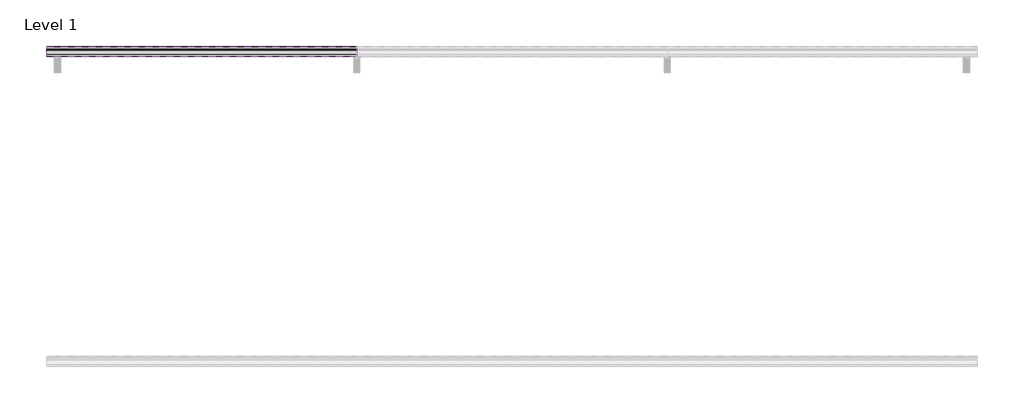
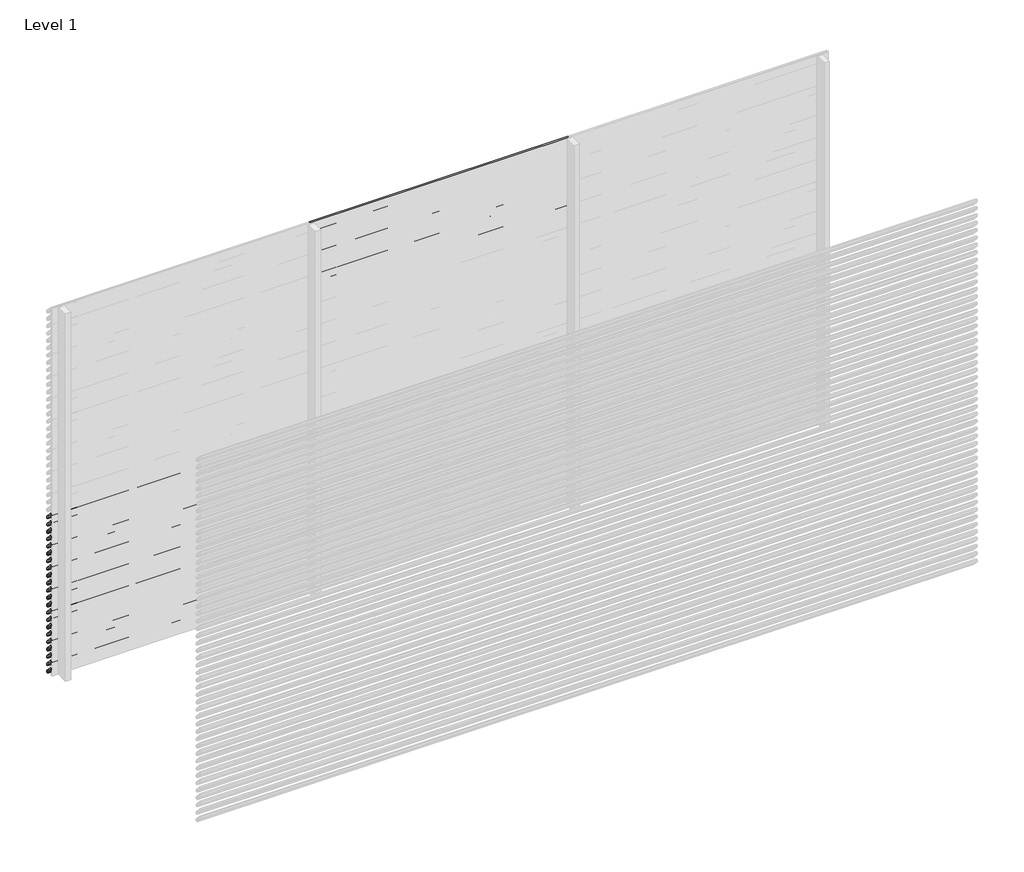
# One storey, part 56 of 153: 33 proxies.
"""IFC4 building model written with IfcOpenShell, lengths in millimetres."""

from ifc_helpers import new_model, si_unit, point, frame, frame_2d, origin, place, context, project, spatial, polyline, circle_curve, trimmed, segment, composite_curve, outline, extrude, element, save

model = new_model("IFC4")

# Units and contexts
model_context = context("Model", 3, world=origin())
ifc_project = project(units=[si_unit("LENGTHUNIT", "METRE", prefix="MILLI")], contexts=[model_context])

# Site, building, storey
site = spatial("IfcSite", under=ifc_project)
building = spatial("IfcBuilding", under=site)
storey = spatial("IfcBuildingStorey", under=building, Name="Level 1", Elevation=0.0)

# Proxies
placement = place(None, origin())
element("IfcBuildingElementProxy", 1, Name="Wall Sweeps", at=placement, inside=storey, context=model_context, shape_type="SweptSolid", body=[
    extrude(outline(composite_curve([segment(polyline([(28985.0540136, 1320.0), (28999.874191, 1318.7034025), (29049.0540136, 1265.0102749), (29049.0540136, 1253.6108187)]), True, "CONTINUOUS"), segment(trimmed(circle_curve(frame_2d((29045.7883652, 1253.897153)), 3.2781774), [point((29049.0540136, 1253.6108187))], [point((29046.4639442, 1250.6893438))], False, "CARTESIAN"), True, "CONTINUOUS"), segment(polyline([(29046.4639442, 1250.6893438), (29034.1895723, 1251.6282758), (28985.0540136, 1305.2730773), (28985.0540136, 1320.0)]), True, "CONTINUOUS")], self_intersect=False), holes=[composite_curve([segment(polyline([(28999.1621773, 1317.2599659), (28986.5540136, 1318.3630372), (28986.5540136, 1305.856213), (29034.8952036, 1253.0786805), (29046.3312542, 1252.2038762)]), True, "CONTINUOUS"), segment(trimmed(circle_curve(frame_2d((29045.7883652, 1253.897153)), 1.7781774), [point((29046.3312542, 1252.2038762))], [point((29047.5540136, 1253.6864389))], True, "CARTESIAN"), True, "CONTINUOUS"), segment(polyline([(29047.5540136, 1253.6864389), (29047.5540136, 1264.4271392), (28999.1621773, 1317.2599659)]), True, "CONTINUOUS")], self_intersect=False)]), frame((44966.6208097, 0.0, 0.0), z_axis=(1.0, 0.0, 0.0), x_axis=(0.0, 1.0, 0.0)), (0.0, 0.0, 1.0), 2000.0000001),
])
element("IfcBuildingElementProxy", 2, Name="Wall Sweeps", at=placement, inside=storey, context=model_context, shape_type="SweptSolid", body=[
    extrude(outline(composite_curve([segment(polyline([(28985.0540136, 1260.0), (28999.874191, 1258.7034025), (29049.0540136, 1205.0102749), (29049.0540136, 1193.6108187)]), True, "CONTINUOUS"), segment(trimmed(circle_curve(frame_2d((29045.7883652, 1193.897153)), 3.2781774), [point((29049.0540136, 1193.6108187))], [point((29046.4639442, 1190.6893438))], False, "CARTESIAN"), True, "CONTINUOUS"), segment(polyline([(29046.4639442, 1190.6893438), (29034.1895723, 1191.6282758), (28985.0540136, 1245.2730773), (28985.0540136, 1260.0)]), True, "CONTINUOUS")], self_intersect=False), holes=[composite_curve([segment(polyline([(28999.1621773, 1257.2599659), (28986.5540136, 1258.3630372), (28986.5540136, 1245.856213), (29034.8952036, 1193.0786805), (29046.3312542, 1192.2038762)]), True, "CONTINUOUS"), segment(trimmed(circle_curve(frame_2d((29045.7883652, 1193.897153)), 1.7781774), [point((29046.3312542, 1192.2038762))], [point((29047.5540136, 1193.6864389))], True, "CARTESIAN"), True, "CONTINUOUS"), segment(polyline([(29047.5540136, 1193.6864389), (29047.5540136, 1204.4271392), (28999.1621773, 1257.2599659)]), True, "CONTINUOUS")], self_intersect=False)]), frame((44966.6208097, 0.0, 0.0), z_axis=(1.0, 0.0, 0.0), x_axis=(0.0, 1.0, 0.0)), (0.0, 0.0, 1.0), 2000.0000001),
])
element("IfcBuildingElementProxy", 3, Name="Wall Sweeps", at=placement, inside=storey, context=model_context, shape_type="SweptSolid", body=[
    extrude(outline(composite_curve([segment(polyline([(28985.0540136, 1200.0), (28999.874191, 1198.7034025), (29049.0540136, 1145.0102749), (29049.0540136, 1133.6108187)]), True, "CONTINUOUS"), segment(trimmed(circle_curve(frame_2d((29045.7883652, 1133.897153)), 3.2781774), [point((29049.0540136, 1133.6108187))], [point((29046.4639442, 1130.6893438))], False, "CARTESIAN"), True, "CONTINUOUS"), segment(polyline([(29046.4639442, 1130.6893438), (29034.1895723, 1131.6282758), (28985.0540136, 1185.2730773), (28985.0540136, 1200.0)]), True, "CONTINUOUS")], self_intersect=False), holes=[composite_curve([segment(polyline([(28999.1621773, 1197.2599659), (28986.5540136, 1198.3630372), (28986.5540136, 1185.856213), (29034.8952036, 1133.0786805), (29046.3312542, 1132.2038762)]), True, "CONTINUOUS"), segment(trimmed(circle_curve(frame_2d((29045.7883652, 1133.897153)), 1.7781774), [point((29046.3312542, 1132.2038762))], [point((29047.5540136, 1133.6864389))], True, "CARTESIAN"), True, "CONTINUOUS"), segment(polyline([(29047.5540136, 1133.6864389), (29047.5540136, 1144.4271392), (28999.1621773, 1197.2599659)]), True, "CONTINUOUS")], self_intersect=False)]), frame((44966.6208097, 0.0, 0.0), z_axis=(1.0, 0.0, 0.0), x_axis=(0.0, 1.0, 0.0)), (0.0, 0.0, 1.0), 2000.0000001),
])
element("IfcBuildingElementProxy", 4, Name="Wall Sweeps", at=placement, inside=storey, context=model_context, shape_type="SweptSolid", body=[
    extrude(outline(composite_curve([segment(polyline([(28985.0540136, 1140.0), (28999.874191, 1138.7034025), (29049.0540136, 1085.0102749), (29049.0540136, 1073.6108187)]), True, "CONTINUOUS"), segment(trimmed(circle_curve(frame_2d((29045.7883652, 1073.897153)), 3.2781774), [point((29049.0540136, 1073.6108187))], [point((29046.4639442, 1070.6893438))], False, "CARTESIAN"), True, "CONTINUOUS"), segment(polyline([(29046.4639442, 1070.6893438), (29034.1895723, 1071.6282758), (28985.0540136, 1125.2730773), (28985.0540136, 1140.0)]), True, "CONTINUOUS")], self_intersect=False), holes=[composite_curve([segment(polyline([(28999.1621773, 1137.2599659), (28986.5540136, 1138.3630372), (28986.5540136, 1125.856213), (29034.8952036, 1073.0786805), (29046.3312542, 1072.2038762)]), True, "CONTINUOUS"), segment(trimmed(circle_curve(frame_2d((29045.7883652, 1073.897153)), 1.7781774), [point((29046.3312542, 1072.2038762))], [point((29047.5540136, 1073.6864389))], True, "CARTESIAN"), True, "CONTINUOUS"), segment(polyline([(29047.5540136, 1073.6864389), (29047.5540136, 1084.4271392), (28999.1621773, 1137.2599659)]), True, "CONTINUOUS")], self_intersect=False)]), frame((44966.6208097, 0.0, 0.0), z_axis=(1.0, 0.0, 0.0), x_axis=(0.0, 1.0, 0.0)), (0.0, 0.0, 1.0), 2000.0000001),
])
element("IfcBuildingElementProxy", 5, Name="Wall Sweeps", at=placement, inside=storey, context=model_context, shape_type="SweptSolid", body=[
    extrude(outline(composite_curve([segment(polyline([(28985.0540136, 1080.0), (28999.874191, 1078.7034025), (29049.0540136, 1025.0102749), (29049.0540136, 1013.6108187)]), True, "CONTINUOUS"), segment(trimmed(circle_curve(frame_2d((29045.7883652, 1013.897153)), 3.2781774), [point((29049.0540136, 1013.6108187))], [point((29046.4639442, 1010.6893438))], False, "CARTESIAN"), True, "CONTINUOUS"), segment(polyline([(29046.4639442, 1010.6893438), (29034.1895723, 1011.6282758), (28985.0540136, 1065.2730773), (28985.0540136, 1080.0)]), True, "CONTINUOUS")], self_intersect=False), holes=[composite_curve([segment(polyline([(28999.1621773, 1077.2599659), (28986.5540136, 1078.3630372), (28986.5540136, 1065.856213), (29034.8952036, 1013.0786805), (29046.3312542, 1012.2038762)]), True, "CONTINUOUS"), segment(trimmed(circle_curve(frame_2d((29045.7883652, 1013.897153)), 1.7781774), [point((29046.3312542, 1012.2038762))], [point((29047.5540136, 1013.6864389))], True, "CARTESIAN"), True, "CONTINUOUS"), segment(polyline([(29047.5540136, 1013.6864389), (29047.5540136, 1024.4271392), (28999.1621773, 1077.2599659)]), True, "CONTINUOUS")], self_intersect=False)]), frame((44966.6208097, 0.0, 0.0), z_axis=(1.0, 0.0, 0.0), x_axis=(0.0, 1.0, 0.0)), (0.0, 0.0, 1.0), 2000.0000001),
])
element("IfcBuildingElementProxy", 6, Name="Wall Sweeps", at=placement, inside=storey, context=model_context, shape_type="SweptSolid", body=[
    extrude(outline(composite_curve([segment(polyline([(28985.0540136, 1020.0), (28999.874191, 1018.7034025), (29049.0540136, 965.0102749), (29049.0540136, 953.6108187)]), True, "CONTINUOUS"), segment(trimmed(circle_curve(frame_2d((29045.7883652, 953.897153)), 3.2781774), [point((29049.0540136, 953.6108187))], [point((29046.4639442, 950.6893438))], False, "CARTESIAN"), True, "CONTINUOUS"), segment(polyline([(29046.4639442, 950.6893438), (29034.1895723, 951.6282758), (28985.0540136, 1005.2730773), (28985.0540136, 1020.0)]), True, "CONTINUOUS")], self_intersect=False), holes=[composite_curve([segment(polyline([(28999.1621773, 1017.2599659), (28986.5540136, 1018.3630372), (28986.5540136, 1005.856213), (29034.8952036, 953.0786805), (29046.3312542, 952.2038762)]), True, "CONTINUOUS"), segment(trimmed(circle_curve(frame_2d((29045.7883652, 953.897153)), 1.7781774), [point((29046.3312542, 952.2038762))], [point((29047.5540136, 953.6864389))], True, "CARTESIAN"), True, "CONTINUOUS"), segment(polyline([(29047.5540136, 953.6864389), (29047.5540136, 964.4271392), (28999.1621773, 1017.2599659)]), True, "CONTINUOUS")], self_intersect=False)]), frame((44966.6208097, 0.0, 0.0), z_axis=(1.0, 0.0, 0.0), x_axis=(0.0, 1.0, 0.0)), (0.0, 0.0, 1.0), 2000.0000001),
])
element("IfcBuildingElementProxy", 7, Name="Wall Sweeps", at=placement, inside=storey, context=model_context, shape_type="SweptSolid", body=[
    extrude(outline(composite_curve([segment(polyline([(28985.0540136, 960.0), (28999.874191, 958.7034025), (29049.0540136, 905.0102749), (29049.0540136, 893.6108187)]), True, "CONTINUOUS"), segment(trimmed(circle_curve(frame_2d((29045.7883652, 893.897153)), 3.2781774), [point((29049.0540136, 893.6108187))], [point((29046.4639442, 890.6893438))], False, "CARTESIAN"), True, "CONTINUOUS"), segment(polyline([(29046.4639442, 890.6893438), (29034.1895723, 891.6282758), (28985.0540136, 945.2730773), (28985.0540136, 960.0)]), True, "CONTINUOUS")], self_intersect=False), holes=[composite_curve([segment(polyline([(28999.1621773, 957.2599659), (28986.5540136, 958.3630372), (28986.5540136, 945.856213), (29034.8952036, 893.0786805), (29046.3312542, 892.2038762)]), True, "CONTINUOUS"), segment(trimmed(circle_curve(frame_2d((29045.7883652, 893.897153)), 1.7781774), [point((29046.3312542, 892.2038762))], [point((29047.5540136, 893.6864389))], True, "CARTESIAN"), True, "CONTINUOUS"), segment(polyline([(29047.5540136, 893.6864389), (29047.5540136, 904.4271392), (28999.1621773, 957.2599659)]), True, "CONTINUOUS")], self_intersect=False)]), frame((44966.6208097, 0.0, 0.0), z_axis=(1.0, 0.0, 0.0), x_axis=(0.0, 1.0, 0.0)), (0.0, 0.0, 1.0), 2000.0000001),
])
element("IfcBuildingElementProxy", 8, Name="Wall Sweeps", at=placement, inside=storey, context=model_context, shape_type="SweptSolid", body=[
    extrude(outline(composite_curve([segment(polyline([(28985.0540136, 900.0), (28999.874191, 898.7034025), (29049.0540136, 845.0102749), (29049.0540136, 833.6108187)]), True, "CONTINUOUS"), segment(trimmed(circle_curve(frame_2d((29045.7883652, 833.897153)), 3.2781774), [point((29049.0540136, 833.6108187))], [point((29046.4639442, 830.6893438))], False, "CARTESIAN"), True, "CONTINUOUS"), segment(polyline([(29046.4639442, 830.6893438), (29034.1895723, 831.6282758), (28985.0540136, 885.2730773), (28985.0540136, 900.0)]), True, "CONTINUOUS")], self_intersect=False), holes=[composite_curve([segment(polyline([(28999.1621773, 897.2599659), (28986.5540136, 898.3630372), (28986.5540136, 885.856213), (29034.8952036, 833.0786805), (29046.3312542, 832.2038762)]), True, "CONTINUOUS"), segment(trimmed(circle_curve(frame_2d((29045.7883652, 833.897153)), 1.7781774), [point((29046.3312542, 832.2038762))], [point((29047.5540136, 833.6864389))], True, "CARTESIAN"), True, "CONTINUOUS"), segment(polyline([(29047.5540136, 833.6864389), (29047.5540136, 844.4271392), (28999.1621773, 897.2599659)]), True, "CONTINUOUS")], self_intersect=False)]), frame((44966.6208097, 0.0, 0.0), z_axis=(1.0, 0.0, 0.0), x_axis=(0.0, 1.0, 0.0)), (0.0, 0.0, 1.0), 2000.0000001),
])
element("IfcBuildingElementProxy", 9, Name="Wall Sweeps", at=placement, inside=storey, context=model_context, shape_type="SweptSolid", body=[
    extrude(outline(composite_curve([segment(polyline([(28985.0540136, 840.0), (28999.874191, 838.7034025), (29049.0540136, 785.0102749), (29049.0540136, 773.6108187)]), True, "CONTINUOUS"), segment(trimmed(circle_curve(frame_2d((29045.7883652, 773.897153)), 3.2781774), [point((29049.0540136, 773.6108187))], [point((29046.4639442, 770.6893438))], False, "CARTESIAN"), True, "CONTINUOUS"), segment(polyline([(29046.4639442, 770.6893438), (29034.1895723, 771.6282758), (28985.0540136, 825.2730773), (28985.0540136, 840.0)]), True, "CONTINUOUS")], self_intersect=False), holes=[composite_curve([segment(polyline([(28999.1621773, 837.2599659), (28986.5540136, 838.3630372), (28986.5540136, 825.856213), (29034.8952036, 773.0786805), (29046.3312542, 772.2038762)]), True, "CONTINUOUS"), segment(trimmed(circle_curve(frame_2d((29045.7883652, 773.897153)), 1.7781774), [point((29046.3312542, 772.2038762))], [point((29047.5540136, 773.6864389))], True, "CARTESIAN"), True, "CONTINUOUS"), segment(polyline([(29047.5540136, 773.6864389), (29047.5540136, 784.4271392), (28999.1621773, 837.2599659)]), True, "CONTINUOUS")], self_intersect=False)]), frame((44966.6208097, 0.0, 0.0), z_axis=(1.0, 0.0, 0.0), x_axis=(0.0, 1.0, 0.0)), (0.0, 0.0, 1.0), 2000.0000001),
])
element("IfcBuildingElementProxy", 10, Name="Wall Sweeps", at=placement, inside=storey, context=model_context, shape_type="SweptSolid", body=[
    extrude(outline(composite_curve([segment(polyline([(28985.0540136, 780.0), (28999.874191, 778.7034025), (29049.0540136, 725.0102749), (29049.0540136, 713.6108187)]), True, "CONTINUOUS"), segment(trimmed(circle_curve(frame_2d((29045.7883652, 713.897153)), 3.2781774), [point((29049.0540136, 713.6108187))], [point((29046.4639442, 710.6893438))], False, "CARTESIAN"), True, "CONTINUOUS"), segment(polyline([(29046.4639442, 710.6893438), (29034.1895723, 711.6282758), (28985.0540136, 765.2730773), (28985.0540136, 780.0)]), True, "CONTINUOUS")], self_intersect=False), holes=[composite_curve([segment(polyline([(28999.1621773, 777.2599659), (28986.5540136, 778.3630372), (28986.5540136, 765.856213), (29034.8952036, 713.0786805), (29046.3312542, 712.2038762)]), True, "CONTINUOUS"), segment(trimmed(circle_curve(frame_2d((29045.7883652, 713.897153)), 1.7781774), [point((29046.3312542, 712.2038762))], [point((29047.5540136, 713.6864389))], True, "CARTESIAN"), True, "CONTINUOUS"), segment(polyline([(29047.5540136, 713.6864389), (29047.5540136, 724.4271392), (28999.1621773, 777.2599659)]), True, "CONTINUOUS")], self_intersect=False)]), frame((44966.6208097, 0.0, 0.0), z_axis=(1.0, 0.0, 0.0), x_axis=(0.0, 1.0, 0.0)), (0.0, 0.0, 1.0), 2000.0000001),
])
element("IfcBuildingElementProxy", 11, Name="Wall Sweeps", at=placement, inside=storey, context=model_context, shape_type="SweptSolid", body=[
    extrude(outline(composite_curve([segment(polyline([(28985.0540136, 720.0), (28999.874191, 718.7034025), (29049.0540136, 665.0102749), (29049.0540136, 653.6108187)]), True, "CONTINUOUS"), segment(trimmed(circle_curve(frame_2d((29045.7883652, 653.897153)), 3.2781774), [point((29049.0540136, 653.6108187))], [point((29046.4639442, 650.6893438))], False, "CARTESIAN"), True, "CONTINUOUS"), segment(polyline([(29046.4639442, 650.6893438), (29034.1895723, 651.6282758), (28985.0540136, 705.2730773), (28985.0540136, 720.0)]), True, "CONTINUOUS")], self_intersect=False), holes=[composite_curve([segment(polyline([(28999.1621773, 717.2599659), (28986.5540136, 718.3630372), (28986.5540136, 705.856213), (29034.8952036, 653.0786805), (29046.3312542, 652.2038762)]), True, "CONTINUOUS"), segment(trimmed(circle_curve(frame_2d((29045.7883652, 653.897153)), 1.7781774), [point((29046.3312542, 652.2038762))], [point((29047.5540136, 653.6864389))], True, "CARTESIAN"), True, "CONTINUOUS"), segment(polyline([(29047.5540136, 653.6864389), (29047.5540136, 664.4271392), (28999.1621773, 717.2599659)]), True, "CONTINUOUS")], self_intersect=False)]), frame((44966.6208097, 0.0, 0.0), z_axis=(1.0, 0.0, 0.0), x_axis=(0.0, 1.0, 0.0)), (0.0, 0.0, 1.0), 2000.0000001),
])
element("IfcBuildingElementProxy", 12, Name="Wall Sweeps", at=placement, inside=storey, context=model_context, shape_type="SweptSolid", body=[
    extrude(outline(composite_curve([segment(polyline([(28985.0540136, 660.0), (28999.874191, 658.7034025), (29049.0540136, 605.0102749), (29049.0540136, 593.6108187)]), True, "CONTINUOUS"), segment(trimmed(circle_curve(frame_2d((29045.7883652, 593.897153)), 3.2781774), [point((29049.0540136, 593.6108187))], [point((29046.4639442, 590.6893438))], False, "CARTESIAN"), True, "CONTINUOUS"), segment(polyline([(29046.4639442, 590.6893438), (29034.1895723, 591.6282758), (28985.0540136, 645.2730773), (28985.0540136, 660.0)]), True, "CONTINUOUS")], self_intersect=False), holes=[composite_curve([segment(polyline([(28999.1621773, 657.2599659), (28986.5540136, 658.3630372), (28986.5540136, 645.856213), (29034.8952036, 593.0786805), (29046.3312542, 592.2038762)]), True, "CONTINUOUS"), segment(trimmed(circle_curve(frame_2d((29045.7883652, 593.897153)), 1.7781774), [point((29046.3312542, 592.2038762))], [point((29047.5540136, 593.6864389))], True, "CARTESIAN"), True, "CONTINUOUS"), segment(polyline([(29047.5540136, 593.6864389), (29047.5540136, 604.4271392), (28999.1621773, 657.2599659)]), True, "CONTINUOUS")], self_intersect=False)]), frame((44966.6208097, 0.0, 0.0), z_axis=(1.0, 0.0, 0.0), x_axis=(0.0, 1.0, 0.0)), (0.0, 0.0, 1.0), 2000.0000001),
])
element("IfcBuildingElementProxy", 13, Name="Wall Sweeps", at=placement, inside=storey, context=model_context, shape_type="SweptSolid", body=[
    extrude(outline(composite_curve([segment(polyline([(28985.0540136, 600.0), (28999.874191, 598.7034025), (29049.0540136, 545.0102749), (29049.0540136, 533.6108187)]), True, "CONTINUOUS"), segment(trimmed(circle_curve(frame_2d((29045.7883652, 533.897153)), 3.2781774), [point((29049.0540136, 533.6108187))], [point((29046.4639442, 530.6893438))], False, "CARTESIAN"), True, "CONTINUOUS"), segment(polyline([(29046.4639442, 530.6893438), (29034.1895723, 531.6282758), (28985.0540136, 585.2730773), (28985.0540136, 600.0)]), True, "CONTINUOUS")], self_intersect=False), holes=[composite_curve([segment(polyline([(28999.1621773, 597.2599659), (28986.5540136, 598.3630372), (28986.5540136, 585.856213), (29034.8952036, 533.0786805), (29046.3312542, 532.2038762)]), True, "CONTINUOUS"), segment(trimmed(circle_curve(frame_2d((29045.7883652, 533.897153)), 1.7781774), [point((29046.3312542, 532.2038762))], [point((29047.5540136, 533.6864389))], True, "CARTESIAN"), True, "CONTINUOUS"), segment(polyline([(29047.5540136, 533.6864389), (29047.5540136, 544.4271392), (28999.1621773, 597.2599659)]), True, "CONTINUOUS")], self_intersect=False)]), frame((44966.6208097, 0.0, 0.0), z_axis=(1.0, 0.0, 0.0), x_axis=(0.0, 1.0, 0.0)), (0.0, 0.0, 1.0), 2000.0000001),
])
element("IfcBuildingElementProxy", 14, Name="Wall Sweeps", at=placement, inside=storey, context=model_context, shape_type="SweptSolid", body=[
    extrude(outline(composite_curve([segment(polyline([(28985.0540136, 540.0), (28999.874191, 538.7034025), (29049.0540136, 485.0102749), (29049.0540136, 473.6108187)]), True, "CONTINUOUS"), segment(trimmed(circle_curve(frame_2d((29045.7883652, 473.897153)), 3.2781774), [point((29049.0540136, 473.6108187))], [point((29046.4639442, 470.6893438))], False, "CARTESIAN"), True, "CONTINUOUS"), segment(polyline([(29046.4639442, 470.6893438), (29034.1895723, 471.6282758), (28985.0540136, 525.2730773), (28985.0540136, 540.0)]), True, "CONTINUOUS")], self_intersect=False), holes=[composite_curve([segment(polyline([(28999.1621773, 537.2599659), (28986.5540136, 538.3630372), (28986.5540136, 525.856213), (29034.8952036, 473.0786805), (29046.3312542, 472.2038762)]), True, "CONTINUOUS"), segment(trimmed(circle_curve(frame_2d((29045.7883652, 473.897153)), 1.7781774), [point((29046.3312542, 472.2038762))], [point((29047.5540136, 473.6864389))], True, "CARTESIAN"), True, "CONTINUOUS"), segment(polyline([(29047.5540136, 473.6864389), (29047.5540136, 484.4271392), (28999.1621773, 537.2599659)]), True, "CONTINUOUS")], self_intersect=False)]), frame((44966.6208097, 0.0, 0.0), z_axis=(1.0, 0.0, 0.0), x_axis=(0.0, 1.0, 0.0)), (0.0, 0.0, 1.0), 2000.0000001),
])
element("IfcBuildingElementProxy", 15, Name="Wall Sweeps", at=placement, inside=storey, context=model_context, shape_type="SweptSolid", body=[
    extrude(outline(composite_curve([segment(polyline([(28985.0540136, 480.0), (28999.874191, 478.7034025), (29049.0540136, 425.0102749), (29049.0540136, 413.6108187)]), True, "CONTINUOUS"), segment(trimmed(circle_curve(frame_2d((29045.7883652, 413.897153)), 3.2781774), [point((29049.0540136, 413.6108187))], [point((29046.4639442, 410.6893438))], False, "CARTESIAN"), True, "CONTINUOUS"), segment(polyline([(29046.4639442, 410.6893438), (29034.1895723, 411.6282758), (28985.0540136, 465.2730773), (28985.0540136, 480.0)]), True, "CONTINUOUS")], self_intersect=False), holes=[composite_curve([segment(polyline([(28999.1621773, 477.2599659), (28986.5540136, 478.3630372), (28986.5540136, 465.856213), (29034.8952036, 413.0786805), (29046.3312542, 412.2038762)]), True, "CONTINUOUS"), segment(trimmed(circle_curve(frame_2d((29045.7883652, 413.897153)), 1.7781774), [point((29046.3312542, 412.2038762))], [point((29047.5540136, 413.6864389))], True, "CARTESIAN"), True, "CONTINUOUS"), segment(polyline([(29047.5540136, 413.6864389), (29047.5540136, 424.4271392), (28999.1621773, 477.2599659)]), True, "CONTINUOUS")], self_intersect=False)]), frame((44966.6208097, 0.0, 0.0), z_axis=(1.0, 0.0, 0.0), x_axis=(0.0, 1.0, 0.0)), (0.0, 0.0, 1.0), 2000.0000001),
])
element("IfcBuildingElementProxy", 16, Name="Wall Sweeps", at=placement, inside=storey, context=model_context, shape_type="SweptSolid", body=[
    extrude(outline(composite_curve([segment(polyline([(28985.0540136, 420.0), (28999.874191, 418.7034025), (29049.0540136, 365.0102749), (29049.0540136, 353.6108187)]), True, "CONTINUOUS"), segment(trimmed(circle_curve(frame_2d((29045.7883652, 353.897153)), 3.2781774), [point((29049.0540136, 353.6108187))], [point((29046.4639442, 350.6893438))], False, "CARTESIAN"), True, "CONTINUOUS"), segment(polyline([(29046.4639442, 350.6893438), (29034.1895723, 351.6282758), (28985.0540136, 405.2730773), (28985.0540136, 420.0)]), True, "CONTINUOUS")], self_intersect=False), holes=[composite_curve([segment(polyline([(28999.1621773, 417.2599659), (28986.5540136, 418.3630372), (28986.5540136, 405.856213), (29034.8952036, 353.0786805), (29046.3312542, 352.2038762)]), True, "CONTINUOUS"), segment(trimmed(circle_curve(frame_2d((29045.7883652, 353.897153)), 1.7781774), [point((29046.3312542, 352.2038762))], [point((29047.5540136, 353.6864389))], True, "CARTESIAN"), True, "CONTINUOUS"), segment(polyline([(29047.5540136, 353.6864389), (29047.5540136, 364.4271392), (28999.1621773, 417.2599659)]), True, "CONTINUOUS")], self_intersect=False)]), frame((44966.6208097, 0.0, 0.0), z_axis=(1.0, 0.0, 0.0), x_axis=(0.0, 1.0, 0.0)), (0.0, 0.0, 1.0), 2000.0000001),
])
element("IfcBuildingElementProxy", 17, Name="Wall Sweeps", at=placement, inside=storey, context=model_context, shape_type="SweptSolid", body=[
    extrude(outline(composite_curve([segment(polyline([(28985.0540136, 360.0), (28999.874191, 358.7034025), (29049.0540136, 305.0102749), (29049.0540136, 293.6108187)]), True, "CONTINUOUS"), segment(trimmed(circle_curve(frame_2d((29045.7883652, 293.897153)), 3.2781774), [point((29049.0540136, 293.6108187))], [point((29046.4639442, 290.6893438))], False, "CARTESIAN"), True, "CONTINUOUS"), segment(polyline([(29046.4639442, 290.6893438), (29034.1895723, 291.6282758), (28985.0540136, 345.2730773), (28985.0540136, 360.0)]), True, "CONTINUOUS")], self_intersect=False), holes=[composite_curve([segment(polyline([(28999.1621773, 357.2599659), (28986.5540136, 358.3630372), (28986.5540136, 345.856213), (29034.8952036, 293.0786805), (29046.3312542, 292.2038762)]), True, "CONTINUOUS"), segment(trimmed(circle_curve(frame_2d((29045.7883652, 293.897153)), 1.7781774), [point((29046.3312542, 292.2038762))], [point((29047.5540136, 293.6864389))], True, "CARTESIAN"), True, "CONTINUOUS"), segment(polyline([(29047.5540136, 293.6864389), (29047.5540136, 304.4271392), (28999.1621773, 357.2599659)]), True, "CONTINUOUS")], self_intersect=False)]), frame((44966.6208097, 0.0, 0.0), z_axis=(1.0, 0.0, 0.0), x_axis=(0.0, 1.0, 0.0)), (0.0, 0.0, 1.0), 2000.0000001),
])
element("IfcBuildingElementProxy", 18, Name="Wall Sweeps", at=placement, inside=storey, context=model_context, shape_type="SweptSolid", body=[
    extrude(outline(composite_curve([segment(polyline([(28985.0540136, 300.0), (28999.874191, 298.7034025), (29049.0540136, 245.0102749), (29049.0540136, 233.6108187)]), True, "CONTINUOUS"), segment(trimmed(circle_curve(frame_2d((29045.7883652, 233.897153)), 3.2781774), [point((29049.0540136, 233.6108187))], [point((29046.4639442, 230.6893438))], False, "CARTESIAN"), True, "CONTINUOUS"), segment(polyline([(29046.4639442, 230.6893438), (29034.1895723, 231.6282758), (28985.0540136, 285.2730773), (28985.0540136, 300.0)]), True, "CONTINUOUS")], self_intersect=False), holes=[composite_curve([segment(polyline([(28999.1621773, 297.2599659), (28986.5540136, 298.3630372), (28986.5540136, 285.856213), (29034.8952036, 233.0786805), (29046.3312542, 232.2038762)]), True, "CONTINUOUS"), segment(trimmed(circle_curve(frame_2d((29045.7883652, 233.897153)), 1.7781774), [point((29046.3312542, 232.2038762))], [point((29047.5540136, 233.6864389))], True, "CARTESIAN"), True, "CONTINUOUS"), segment(polyline([(29047.5540136, 233.6864389), (29047.5540136, 244.4271392), (28999.1621773, 297.2599659)]), True, "CONTINUOUS")], self_intersect=False)]), frame((44966.6208097, 0.0, 0.0), z_axis=(1.0, 0.0, 0.0), x_axis=(0.0, 1.0, 0.0)), (0.0, 0.0, 1.0), 2000.0000001),
])
element("IfcBuildingElementProxy", 19, Name="Wall Sweeps", at=placement, inside=storey, context=model_context, shape_type="SweptSolid", body=[
    extrude(outline(composite_curve([segment(polyline([(28985.0540136, 240.0), (28999.874191, 238.7034025), (29049.0540136, 185.0102749), (29049.0540136, 173.6108187)]), True, "CONTINUOUS"), segment(trimmed(circle_curve(frame_2d((29045.7883652, 173.897153)), 3.2781774), [point((29049.0540136, 173.6108187))], [point((29046.4639442, 170.6893438))], False, "CARTESIAN"), True, "CONTINUOUS"), segment(polyline([(29046.4639442, 170.6893438), (29034.1895723, 171.6282758), (28985.0540136, 225.2730773), (28985.0540136, 240.0)]), True, "CONTINUOUS")], self_intersect=False), holes=[composite_curve([segment(polyline([(28999.1621773, 237.2599659), (28986.5540136, 238.3630372), (28986.5540136, 225.856213), (29034.8952036, 173.0786805), (29046.3312542, 172.2038762)]), True, "CONTINUOUS"), segment(trimmed(circle_curve(frame_2d((29045.7883652, 173.897153)), 1.7781774), [point((29046.3312542, 172.2038762))], [point((29047.5540136, 173.6864389))], True, "CARTESIAN"), True, "CONTINUOUS"), segment(polyline([(29047.5540136, 173.6864389), (29047.5540136, 184.4271392), (28999.1621773, 237.2599659)]), True, "CONTINUOUS")], self_intersect=False)]), frame((44966.6208097, 0.0, 0.0), z_axis=(1.0, 0.0, 0.0), x_axis=(0.0, 1.0, 0.0)), (0.0, 0.0, 1.0), 2000.0000001),
])
element("IfcBuildingElementProxy", 20, Name="Wall Sweeps", at=placement, inside=storey, context=model_context, shape_type="SweptSolid", body=[
    extrude(outline(composite_curve([segment(polyline([(28985.0540136, 180.0), (28999.874191, 178.7034025), (29049.0540136, 125.0102749), (29049.0540136, 113.6108187)]), True, "CONTINUOUS"), segment(trimmed(circle_curve(frame_2d((29045.7883652, 113.897153)), 3.2781774), [point((29049.0540136, 113.6108187))], [point((29046.4639442, 110.6893438))], False, "CARTESIAN"), True, "CONTINUOUS"), segment(polyline([(29046.4639442, 110.6893438), (29034.1895723, 111.6282758), (28985.0540136, 165.2730773), (28985.0540136, 180.0)]), True, "CONTINUOUS")], self_intersect=False), holes=[composite_curve([segment(polyline([(28999.1621773, 177.2599659), (28986.5540136, 178.3630372), (28986.5540136, 165.856213), (29034.8952036, 113.0786805), (29046.3312542, 112.2038762)]), True, "CONTINUOUS"), segment(trimmed(circle_curve(frame_2d((29045.7883652, 113.897153)), 1.7781774), [point((29046.3312542, 112.2038762))], [point((29047.5540136, 113.6864389))], True, "CARTESIAN"), True, "CONTINUOUS"), segment(polyline([(29047.5540136, 113.6864389), (29047.5540136, 124.4271392), (28999.1621773, 177.2599659)]), True, "CONTINUOUS")], self_intersect=False)]), frame((44966.6208097, 0.0, 0.0), z_axis=(1.0, 0.0, 0.0), x_axis=(0.0, 1.0, 0.0)), (0.0, 0.0, 1.0), 2000.0000001),
])
element("IfcBuildingElementProxy", 21, Name="Wall Sweeps", at=placement, inside=storey, context=model_context, shape_type="SweptSolid", body=[
    extrude(outline(composite_curve([segment(polyline([(28985.0540136, 120.0), (28999.874191, 118.7034025), (29049.0540136, 65.0102749), (29049.0540136, 53.6108187)]), True, "CONTINUOUS"), segment(trimmed(circle_curve(frame_2d((29045.7883652, 53.897153)), 3.2781774), [point((29049.0540136, 53.6108187))], [point((29046.4639442, 50.6893438))], False, "CARTESIAN"), True, "CONTINUOUS"), segment(polyline([(29046.4639442, 50.6893438), (29034.1895723, 51.6282758), (28985.0540136, 105.2730773), (28985.0540136, 120.0)]), True, "CONTINUOUS")], self_intersect=False), holes=[composite_curve([segment(polyline([(28999.1621773, 117.2599659), (28986.5540136, 118.3630372), (28986.5540136, 105.856213), (29034.8952036, 53.0786805), (29046.3312542, 52.2038762)]), True, "CONTINUOUS"), segment(trimmed(circle_curve(frame_2d((29045.7883652, 53.897153)), 1.7781774), [point((29046.3312542, 52.2038762))], [point((29047.5540136, 53.6864389))], True, "CARTESIAN"), True, "CONTINUOUS"), segment(polyline([(29047.5540136, 53.6864389), (29047.5540136, 64.4271392), (28999.1621773, 117.2599659)]), True, "CONTINUOUS")], self_intersect=False)]), frame((44966.6208097, 0.0, 0.0), z_axis=(1.0, 0.0, 0.0), x_axis=(0.0, 1.0, 0.0)), (0.0, 0.0, 1.0), 2000.0000001),
])
element("IfcBuildingElementProxy", 22, Name="Wall Sweeps", at=placement, inside=storey, context=model_context, shape_type="SweptSolid", body=[
    extrude(outline(composite_curve([segment(polyline([(28985.0540136, 60.0), (28999.874191, 58.7034025), (29049.0540136, 5.0102749), (29049.0540136, -6.3891813)]), True, "CONTINUOUS"), segment(trimmed(circle_curve(frame_2d((29045.7883652, -6.102847)), 3.2781774), [point((29049.0540136, -6.3891813))], [point((29046.4639442, -9.3106562))], False, "CARTESIAN"), True, "CONTINUOUS"), segment(polyline([(29046.4639442, -9.3106562), (29034.1895723, -8.3717242), (28985.0540136, 45.2730773), (28985.0540136, 60.0)]), True, "CONTINUOUS")], self_intersect=False), holes=[composite_curve([segment(polyline([(28999.1621773, 57.2599659), (28986.5540136, 58.3630372), (28986.5540136, 45.856213), (29034.8952036, -6.9213195), (29046.3312542, -7.7961238)]), True, "CONTINUOUS"), segment(trimmed(circle_curve(frame_2d((29045.7883652, -6.102847)), 1.7781774), [point((29046.3312542, -7.7961238))], [point((29047.5540136, -6.3135611))], True, "CARTESIAN"), True, "CONTINUOUS"), segment(polyline([(29047.5540136, -6.3135611), (29047.5540136, 4.4271392), (28999.1621773, 57.2599659)]), True, "CONTINUOUS")], self_intersect=False)]), frame((44966.6208097, 0.0, 0.0), z_axis=(1.0, 0.0, 0.0), x_axis=(0.0, 1.0, 0.0)), (0.0, 0.0, 1.0), 2000.0000001),
])
element("IfcBuildingElementProxy", 23, Name="Wall Sweeps", at=placement, inside=storey, context=model_context, shape_type="SweptSolid", body=[
    extrude(outline(composite_curve([segment(polyline([(28985.0540136, 3000.0), (28999.874191, 2998.7034025), (29049.0540136, 2945.0102749), (29049.0540136, 2933.6108187)]), True, "CONTINUOUS"), segment(trimmed(circle_curve(frame_2d((29045.7883652, 2933.897153)), 3.2781774), [point((29049.0540136, 2933.6108187))], [point((29046.4639442, 2930.6893438))], False, "CARTESIAN"), True, "CONTINUOUS"), segment(polyline([(29046.4639442, 2930.6893438), (29034.1895723, 2931.6282758), (28985.0540136, 2985.2730773), (28985.0540136, 3000.0)]), True, "CONTINUOUS")], self_intersect=False), holes=[composite_curve([segment(polyline([(28999.1621773, 2997.2599659), (28986.5540136, 2998.3630372), (28986.5540136, 2985.856213), (29034.8952036, 2933.0786805), (29046.3312542, 2932.2038762)]), True, "CONTINUOUS"), segment(trimmed(circle_curve(frame_2d((29045.7883652, 2933.897153)), 1.7781774), [point((29046.3312542, 2932.2038762))], [point((29047.5540136, 2933.6864389))], True, "CARTESIAN"), True, "CONTINUOUS"), segment(polyline([(29047.5540136, 2933.6864389), (29047.5540136, 2944.4271392), (28999.1621773, 2997.2599659)]), True, "CONTINUOUS")], self_intersect=False)]), frame((46966.6208098, 0.0, 0.0), z_axis=(1.0, 0.0, 0.0), x_axis=(0.0, 1.0, 0.0)), (0.0, 0.0, 1.0), 1999.9999998),
])
element("IfcBuildingElementProxy", 24, Name="Wall Sweeps", at=placement, inside=storey, context=model_context, shape_type="SweptSolid", body=[
    extrude(outline(composite_curve([segment(polyline([(28985.0540136, 2940.0), (28999.874191, 2938.7034025), (29049.0540136, 2885.0102749), (29049.0540136, 2873.6108187)]), True, "CONTINUOUS"), segment(trimmed(circle_curve(frame_2d((29045.7883652, 2873.897153)), 3.2781774), [point((29049.0540136, 2873.6108187))], [point((29046.4639442, 2870.6893438))], False, "CARTESIAN"), True, "CONTINUOUS"), segment(polyline([(29046.4639442, 2870.6893438), (29034.1895723, 2871.6282758), (28985.0540136, 2925.2730773), (28985.0540136, 2940.0)]), True, "CONTINUOUS")], self_intersect=False), holes=[composite_curve([segment(polyline([(28999.1621773, 2937.2599659), (28986.5540136, 2938.3630372), (28986.5540136, 2925.856213), (29034.8952036, 2873.0786805), (29046.3312542, 2872.2038762)]), True, "CONTINUOUS"), segment(trimmed(circle_curve(frame_2d((29045.7883652, 2873.897153)), 1.7781774), [point((29046.3312542, 2872.2038762))], [point((29047.5540136, 2873.6864389))], True, "CARTESIAN"), True, "CONTINUOUS"), segment(polyline([(29047.5540136, 2873.6864389), (29047.5540136, 2884.4271392), (28999.1621773, 2937.2599659)]), True, "CONTINUOUS")], self_intersect=False)]), frame((46966.6208098, 0.0, 0.0), z_axis=(1.0, 0.0, 0.0), x_axis=(0.0, 1.0, 0.0)), (0.0, 0.0, 1.0), 1999.9999998),
])
element("IfcBuildingElementProxy", 25, Name="Wall Sweeps", at=placement, inside=storey, context=model_context, shape_type="SweptSolid", body=[
    extrude(outline(composite_curve([segment(polyline([(28985.0540136, 2880.0), (28999.874191, 2878.7034025), (29049.0540136, 2825.0102749), (29049.0540136, 2813.6108187)]), True, "CONTINUOUS"), segment(trimmed(circle_curve(frame_2d((29045.7883652, 2813.897153)), 3.2781774), [point((29049.0540136, 2813.6108187))], [point((29046.4639442, 2810.6893438))], False, "CARTESIAN"), True, "CONTINUOUS"), segment(polyline([(29046.4639442, 2810.6893438), (29034.1895723, 2811.6282758), (28985.0540136, 2865.2730773), (28985.0540136, 2880.0)]), True, "CONTINUOUS")], self_intersect=False), holes=[composite_curve([segment(polyline([(28999.1621773, 2877.2599659), (28986.5540136, 2878.3630372), (28986.5540136, 2865.856213), (29034.8952036, 2813.0786805), (29046.3312542, 2812.2038762)]), True, "CONTINUOUS"), segment(trimmed(circle_curve(frame_2d((29045.7883652, 2813.897153)), 1.7781774), [point((29046.3312542, 2812.2038762))], [point((29047.5540136, 2813.6864389))], True, "CARTESIAN"), True, "CONTINUOUS"), segment(polyline([(29047.5540136, 2813.6864389), (29047.5540136, 2824.4271392), (28999.1621773, 2877.2599659)]), True, "CONTINUOUS")], self_intersect=False)]), frame((46966.6208098, 0.0, 0.0), z_axis=(1.0, 0.0, 0.0), x_axis=(0.0, 1.0, 0.0)), (0.0, 0.0, 1.0), 1999.9999998),
])
element("IfcBuildingElementProxy", 26, Name="Wall Sweeps", at=placement, inside=storey, context=model_context, shape_type="SweptSolid", body=[
    extrude(outline(composite_curve([segment(polyline([(28985.0540136, 2820.0), (28999.874191, 2818.7034025), (29049.0540136, 2765.0102749), (29049.0540136, 2753.6108187)]), True, "CONTINUOUS"), segment(trimmed(circle_curve(frame_2d((29045.7883652, 2753.897153)), 3.2781774), [point((29049.0540136, 2753.6108187))], [point((29046.4639442, 2750.6893438))], False, "CARTESIAN"), True, "CONTINUOUS"), segment(polyline([(29046.4639442, 2750.6893438), (29034.1895723, 2751.6282758), (28985.0540136, 2805.2730773), (28985.0540136, 2820.0)]), True, "CONTINUOUS")], self_intersect=False), holes=[composite_curve([segment(polyline([(28999.1621773, 2817.2599659), (28986.5540136, 2818.3630372), (28986.5540136, 2805.856213), (29034.8952036, 2753.0786805), (29046.3312542, 2752.2038762)]), True, "CONTINUOUS"), segment(trimmed(circle_curve(frame_2d((29045.7883652, 2753.897153)), 1.7781774), [point((29046.3312542, 2752.2038762))], [point((29047.5540136, 2753.6864389))], True, "CARTESIAN"), True, "CONTINUOUS"), segment(polyline([(29047.5540136, 2753.6864389), (29047.5540136, 2764.4271392), (28999.1621773, 2817.2599659)]), True, "CONTINUOUS")], self_intersect=False)]), frame((46966.6208098, 0.0, 0.0), z_axis=(1.0, 0.0, 0.0), x_axis=(0.0, 1.0, 0.0)), (0.0, 0.0, 1.0), 1999.9999998),
])
element("IfcBuildingElementProxy", 27, Name="Wall Sweeps", at=placement, inside=storey, context=model_context, shape_type="SweptSolid", body=[
    extrude(outline(composite_curve([segment(polyline([(28985.0540136, 2760.0), (28999.874191, 2758.7034025), (29049.0540136, 2705.0102749), (29049.0540136, 2693.6108187)]), True, "CONTINUOUS"), segment(trimmed(circle_curve(frame_2d((29045.7883652, 2693.897153)), 3.2781774), [point((29049.0540136, 2693.6108187))], [point((29046.4639442, 2690.6893438))], False, "CARTESIAN"), True, "CONTINUOUS"), segment(polyline([(29046.4639442, 2690.6893438), (29034.1895723, 2691.6282758), (28985.0540136, 2745.2730773), (28985.0540136, 2760.0)]), True, "CONTINUOUS")], self_intersect=False), holes=[composite_curve([segment(polyline([(28999.1621773, 2757.2599659), (28986.5540136, 2758.3630372), (28986.5540136, 2745.856213), (29034.8952036, 2693.0786805), (29046.3312542, 2692.2038762)]), True, "CONTINUOUS"), segment(trimmed(circle_curve(frame_2d((29045.7883652, 2693.897153)), 1.7781774), [point((29046.3312542, 2692.2038762))], [point((29047.5540136, 2693.6864389))], True, "CARTESIAN"), True, "CONTINUOUS"), segment(polyline([(29047.5540136, 2693.6864389), (29047.5540136, 2704.4271392), (28999.1621773, 2757.2599659)]), True, "CONTINUOUS")], self_intersect=False)]), frame((46966.6208098, 0.0, 0.0), z_axis=(1.0, 0.0, 0.0), x_axis=(0.0, 1.0, 0.0)), (0.0, 0.0, 1.0), 1999.9999998),
])
element("IfcBuildingElementProxy", 28, Name="Wall Sweeps", at=placement, inside=storey, context=model_context, shape_type="SweptSolid", body=[
    extrude(outline(composite_curve([segment(polyline([(28985.0540136, 2700.0), (28999.874191, 2698.7034025), (29049.0540136, 2645.0102749), (29049.0540136, 2633.6108187)]), True, "CONTINUOUS"), segment(trimmed(circle_curve(frame_2d((29045.7883652, 2633.897153)), 3.2781774), [point((29049.0540136, 2633.6108187))], [point((29046.4639442, 2630.6893438))], False, "CARTESIAN"), True, "CONTINUOUS"), segment(polyline([(29046.4639442, 2630.6893438), (29034.1895723, 2631.6282758), (28985.0540136, 2685.2730773), (28985.0540136, 2700.0)]), True, "CONTINUOUS")], self_intersect=False), holes=[composite_curve([segment(polyline([(28999.1621773, 2697.2599659), (28986.5540136, 2698.3630372), (28986.5540136, 2685.856213), (29034.8952036, 2633.0786805), (29046.3312542, 2632.2038762)]), True, "CONTINUOUS"), segment(trimmed(circle_curve(frame_2d((29045.7883652, 2633.897153)), 1.7781774), [point((29046.3312542, 2632.2038762))], [point((29047.5540136, 2633.6864389))], True, "CARTESIAN"), True, "CONTINUOUS"), segment(polyline([(29047.5540136, 2633.6864389), (29047.5540136, 2644.4271392), (28999.1621773, 2697.2599659)]), True, "CONTINUOUS")], self_intersect=False)]), frame((46966.6208098, 0.0, 0.0), z_axis=(1.0, 0.0, 0.0), x_axis=(0.0, 1.0, 0.0)), (0.0, 0.0, 1.0), 1999.9999998),
])
element("IfcBuildingElementProxy", 29, Name="Wall Sweeps", at=placement, inside=storey, context=model_context, shape_type="SweptSolid", body=[
    extrude(outline(composite_curve([segment(polyline([(28985.0540136, 2640.0), (28999.874191, 2638.7034025), (29049.0540136, 2585.0102749), (29049.0540136, 2573.6108187)]), True, "CONTINUOUS"), segment(trimmed(circle_curve(frame_2d((29045.7883652, 2573.897153)), 3.2781774), [point((29049.0540136, 2573.6108187))], [point((29046.4639442, 2570.6893438))], False, "CARTESIAN"), True, "CONTINUOUS"), segment(polyline([(29046.4639442, 2570.6893438), (29034.1895723, 2571.6282758), (28985.0540136, 2625.2730773), (28985.0540136, 2640.0)]), True, "CONTINUOUS")], self_intersect=False), holes=[composite_curve([segment(polyline([(28999.1621773, 2637.2599659), (28986.5540136, 2638.3630372), (28986.5540136, 2625.856213), (29034.8952036, 2573.0786805), (29046.3312542, 2572.2038762)]), True, "CONTINUOUS"), segment(trimmed(circle_curve(frame_2d((29045.7883652, 2573.897153)), 1.7781774), [point((29046.3312542, 2572.2038762))], [point((29047.5540136, 2573.6864389))], True, "CARTESIAN"), True, "CONTINUOUS"), segment(polyline([(29047.5540136, 2573.6864389), (29047.5540136, 2584.4271392), (28999.1621773, 2637.2599659)]), True, "CONTINUOUS")], self_intersect=False)]), frame((46966.6208098, 0.0, 0.0), z_axis=(1.0, 0.0, 0.0), x_axis=(0.0, 1.0, 0.0)), (0.0, 0.0, 1.0), 1999.9999998),
])
element("IfcBuildingElementProxy", 30, Name="Wall Sweeps", at=placement, inside=storey, context=model_context, shape_type="SweptSolid", body=[
    extrude(outline(composite_curve([segment(polyline([(28985.0540136, 2580.0), (28999.874191, 2578.7034025), (29049.0540136, 2525.0102749), (29049.0540136, 2513.6108187)]), True, "CONTINUOUS"), segment(trimmed(circle_curve(frame_2d((29045.7883652, 2513.897153)), 3.2781774), [point((29049.0540136, 2513.6108187))], [point((29046.4639442, 2510.6893438))], False, "CARTESIAN"), True, "CONTINUOUS"), segment(polyline([(29046.4639442, 2510.6893438), (29034.1895723, 2511.6282758), (28985.0540136, 2565.2730773), (28985.0540136, 2580.0)]), True, "CONTINUOUS")], self_intersect=False), holes=[composite_curve([segment(polyline([(28999.1621773, 2577.2599659), (28986.5540136, 2578.3630372), (28986.5540136, 2565.856213), (29034.8952036, 2513.0786805), (29046.3312542, 2512.2038762)]), True, "CONTINUOUS"), segment(trimmed(circle_curve(frame_2d((29045.7883652, 2513.897153)), 1.7781774), [point((29046.3312542, 2512.2038762))], [point((29047.5540136, 2513.6864389))], True, "CARTESIAN"), True, "CONTINUOUS"), segment(polyline([(29047.5540136, 2513.6864389), (29047.5540136, 2524.4271392), (28999.1621773, 2577.2599659)]), True, "CONTINUOUS")], self_intersect=False)]), frame((46966.6208098, 0.0, 0.0), z_axis=(1.0, 0.0, 0.0), x_axis=(0.0, 1.0, 0.0)), (0.0, 0.0, 1.0), 1999.9999998),
])
element("IfcBuildingElementProxy", 31, Name="Wall Sweeps", at=placement, inside=storey, context=model_context, shape_type="SweptSolid", body=[
    extrude(outline(composite_curve([segment(polyline([(28985.0540136, 2520.0), (28999.874191, 2518.7034025), (29049.0540136, 2465.0102749), (29049.0540136, 2453.6108187)]), True, "CONTINUOUS"), segment(trimmed(circle_curve(frame_2d((29045.7883652, 2453.897153)), 3.2781774), [point((29049.0540136, 2453.6108187))], [point((29046.4639442, 2450.6893438))], False, "CARTESIAN"), True, "CONTINUOUS"), segment(polyline([(29046.4639442, 2450.6893438), (29034.1895723, 2451.6282758), (28985.0540136, 2505.2730773), (28985.0540136, 2520.0)]), True, "CONTINUOUS")], self_intersect=False), holes=[composite_curve([segment(polyline([(28999.1621773, 2517.2599659), (28986.5540136, 2518.3630372), (28986.5540136, 2505.856213), (29034.8952036, 2453.0786805), (29046.3312542, 2452.2038762)]), True, "CONTINUOUS"), segment(trimmed(circle_curve(frame_2d((29045.7883652, 2453.897153)), 1.7781774), [point((29046.3312542, 2452.2038762))], [point((29047.5540136, 2453.6864389))], True, "CARTESIAN"), True, "CONTINUOUS"), segment(polyline([(29047.5540136, 2453.6864389), (29047.5540136, 2464.4271392), (28999.1621773, 2517.2599659)]), True, "CONTINUOUS")], self_intersect=False)]), frame((46966.6208098, 0.0, 0.0), z_axis=(1.0, 0.0, 0.0), x_axis=(0.0, 1.0, 0.0)), (0.0, 0.0, 1.0), 1999.9999998),
])
element("IfcBuildingElementProxy", 32, Name="Wall Sweeps", at=placement, inside=storey, context=model_context, shape_type="SweptSolid", body=[
    extrude(outline(composite_curve([segment(polyline([(28985.0540136, 2460.0), (28999.874191, 2458.7034025), (29049.0540136, 2405.0102749), (29049.0540136, 2393.6108187)]), True, "CONTINUOUS"), segment(trimmed(circle_curve(frame_2d((29045.7883652, 2393.897153)), 3.2781774), [point((29049.0540136, 2393.6108187))], [point((29046.4639442, 2390.6893438))], False, "CARTESIAN"), True, "CONTINUOUS"), segment(polyline([(29046.4639442, 2390.6893438), (29034.1895723, 2391.6282758), (28985.0540136, 2445.2730773), (28985.0540136, 2460.0)]), True, "CONTINUOUS")], self_intersect=False), holes=[composite_curve([segment(polyline([(28999.1621773, 2457.2599659), (28986.5540136, 2458.3630372), (28986.5540136, 2445.856213), (29034.8952036, 2393.0786805), (29046.3312542, 2392.2038762)]), True, "CONTINUOUS"), segment(trimmed(circle_curve(frame_2d((29045.7883652, 2393.897153)), 1.7781774), [point((29046.3312542, 2392.2038762))], [point((29047.5540136, 2393.6864389))], True, "CARTESIAN"), True, "CONTINUOUS"), segment(polyline([(29047.5540136, 2393.6864389), (29047.5540136, 2404.4271392), (28999.1621773, 2457.2599659)]), True, "CONTINUOUS")], self_intersect=False)]), frame((46966.6208098, 0.0, 0.0), z_axis=(1.0, 0.0, 0.0), x_axis=(0.0, 1.0, 0.0)), (0.0, 0.0, 1.0), 1999.9999998),
])
element("IfcBuildingElementProxy", 33, Name="Wall Sweeps", at=placement, inside=storey, context=model_context, shape_type="SweptSolid", body=[
    extrude(outline(composite_curve([segment(polyline([(28985.0540136, 2400.0), (28999.874191, 2398.7034025), (29049.0540136, 2345.0102749), (29049.0540136, 2333.6108187)]), True, "CONTINUOUS"), segment(trimmed(circle_curve(frame_2d((29045.7883652, 2333.897153)), 3.2781774), [point((29049.0540136, 2333.6108187))], [point((29046.4639442, 2330.6893438))], False, "CARTESIAN"), True, "CONTINUOUS"), segment(polyline([(29046.4639442, 2330.6893438), (29034.1895723, 2331.6282758), (28985.0540136, 2385.2730773), (28985.0540136, 2400.0)]), True, "CONTINUOUS")], self_intersect=False), holes=[composite_curve([segment(polyline([(28999.1621773, 2397.2599659), (28986.5540136, 2398.3630372), (28986.5540136, 2385.856213), (29034.8952036, 2333.0786805), (29046.3312542, 2332.2038762)]), True, "CONTINUOUS"), segment(trimmed(circle_curve(frame_2d((29045.7883652, 2333.897153)), 1.7781774), [point((29046.3312542, 2332.2038762))], [point((29047.5540136, 2333.6864389))], True, "CARTESIAN"), True, "CONTINUOUS"), segment(polyline([(29047.5540136, 2333.6864389), (29047.5540136, 2344.4271392), (28999.1621773, 2397.2599659)]), True, "CONTINUOUS")], self_intersect=False)]), frame((46966.6208098, 0.0, 0.0), z_axis=(1.0, 0.0, 0.0), x_axis=(0.0, 1.0, 0.0)), (0.0, 0.0, 1.0), 1999.9999998),
])

save(model, "model.ifc")
